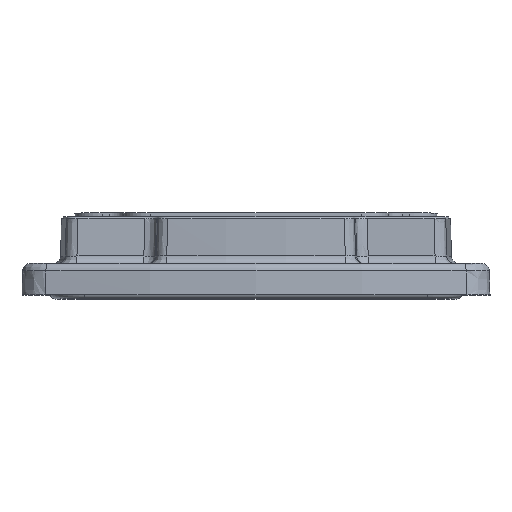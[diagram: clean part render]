
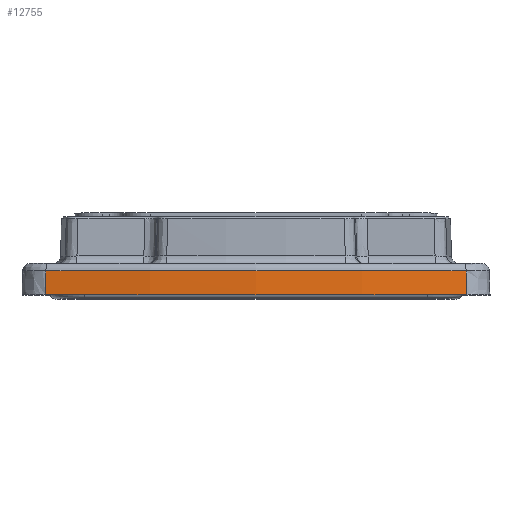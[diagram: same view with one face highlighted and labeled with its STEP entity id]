
A CAD part, top view. The second image highlights one B-rep face of the part: STEP entity #12755.
In plain terms, the highlighted conical face has half-angle 1.5 degrees and reference radius 265.921 mm.
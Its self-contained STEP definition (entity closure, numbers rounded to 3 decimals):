
#2400=CARTESIAN_POINT('',(-54.025,-20.,59.456));
#2414=CARTESIAN_POINT('',(0.,-20.,-201.));
#2415=DIRECTION('',(0.,-1.,0.));
#2416=DIRECTION('',(0.203,0.,0.979));
#2417=AXIS2_PLACEMENT_3D('',#2414,#2415,#2416);
#2431=CARTESIAN_POINT('',(54.025,-20.,59.456));
#3122=CARTESIAN_POINT('',(0.,-13.948,-201.));
#3123=DIRECTION('',(0.,1.,0.));
#3124=DIRECTION('',(-0.203,0.,0.979));
#3125=AXIS2_PLACEMENT_3D('',#3122,#3123,#3124);
#3130=CARTESIAN_POINT('',(54.025,-20.,59.456));
#3131=CARTESIAN_POINT('',(54.008,-19.367,59.442));
#3132=CARTESIAN_POINT('',(53.974,-18.075,59.415));
#3133=CARTESIAN_POINT('',(53.92,-16.076,59.373));
#3134=CARTESIAN_POINT('',(53.882,-14.668,59.343));
#3135=CARTESIAN_POINT('',(53.863,-13.948,59.328));
#3140=CARTESIAN_POINT('',(-54.025,-20.,59.456));
#3141=CARTESIAN_POINT('',(-54.008,-19.367,
59.442));
#3142=CARTESIAN_POINT('',(-53.974,-18.075,
59.415));
#3143=CARTESIAN_POINT('',(-53.92,-16.076,
59.373));
#3144=CARTESIAN_POINT('',(-53.882,-14.668,
59.343));
#3145=CARTESIAN_POINT('',(-53.863,-13.948,
59.328));
#3160=CARTESIAN_POINT('',(-53.863,-13.948,
59.328));
#8847=VERTEX_POINT('',#2431);
#8848=VERTEX_POINT('',#2400);
#8861=VERTEX_POINT('',#3160);
#8864=CARTESIAN_POINT('',(53.863,-13.948,59.328));
#8865=VERTEX_POINT('',#8864);
#12743=CARTESIAN_POINT('',(0.,-16.974,-201.));
#12744=DIRECTION('',(0.,-1.,0.));
#12745=DIRECTION('',(-1.,0.,0.));
#12746=AXIS2_PLACEMENT_3D('',#12743,#12744,#12745);
#12747=CONICAL_SURFACE('',#12746,265.921,1.5);
#12748=ORIENTED_EDGE('',*,*,#12585,.T.);
#12749=ORIENTED_EDGE('',*,*,#12731,.F.);
#12750=ORIENTED_EDGE('',*,*,#11813,.T.);
#12752=ORIENTED_EDGE('',*,*,#12751,.T.);
#12753=EDGE_LOOP('',(#12748,#12749,#12750,#12752));
#12754=FACE_OUTER_BOUND('',#12753,.F.);
#2418=CIRCLE('',#2417,266.);
#3126=CIRCLE('',#3125,265.842);
#3136=B_SPLINE_CURVE_WITH_KNOTS('',3,(#3130,#3131,#3132,#3133,#3134,#3135),
.UNSPECIFIED.,.F.,.F.,(4,1,1,4),(0.,0.333,0.667,1.),
.UNSPECIFIED.);
#3146=B_SPLINE_CURVE_WITH_KNOTS('',3,(#3140,#3141,#3142,#3143,#3144,#3145),
.UNSPECIFIED.,.F.,.F.,(4,1,1,4),(0.,0.333,0.667,1.),
.UNSPECIFIED.);
#11813=EDGE_CURVE('',#8847,#8848,#2418,.T.);
#12585=EDGE_CURVE('',#8861,#8865,#3126,.T.);
#12731=EDGE_CURVE('',#8847,#8865,#3136,.T.);
#12751=EDGE_CURVE('',#8848,#8861,#3146,.T.);
#12755=ADVANCED_FACE('',(#12754),#12747,.T.);
